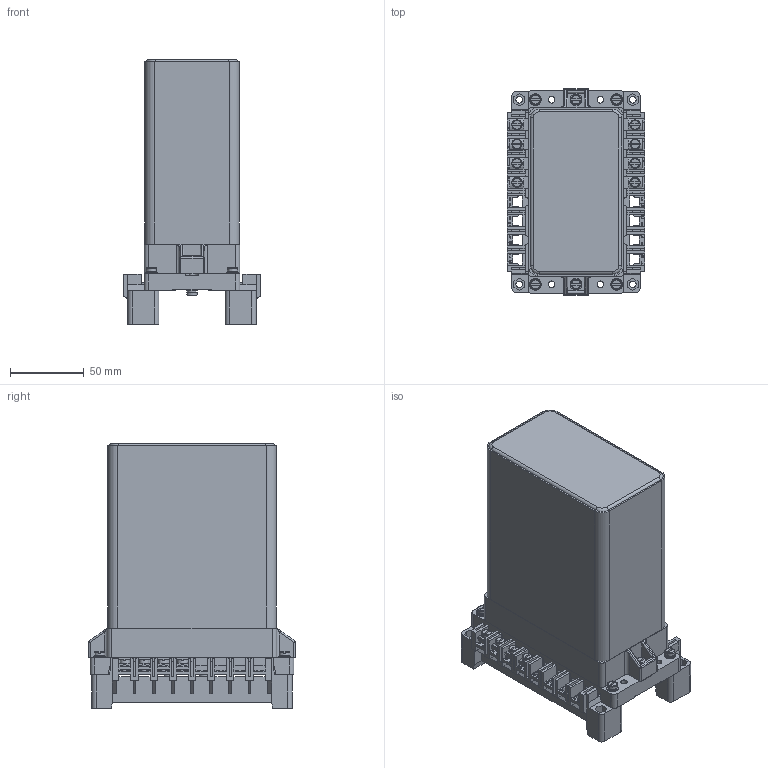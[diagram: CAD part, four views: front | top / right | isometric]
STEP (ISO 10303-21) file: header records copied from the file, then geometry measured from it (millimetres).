
FILE_DESCRIPTION(('STEP AP214'), '1');
FILE_NAME('ÈÀÅÆ.647155.016-84 - ÐÒ-140_2 ï.ï', '', ('UNSPECIFIED'), ('UNSPECIFIED'), 'ASCON STEP Converter 1.3', 'ASCON Math Kernel', '');
FILE_SCHEMA(('AUTOMOTIVE_DESIGN { 1 0 10303 214 3 1 1}'));
Length unit declared in the file: millimetre
Products named in the file (1): 壤牌.647155.016-84
Bounding box: 93 x 140 x 179.5 mm (x, y, z)
Volume: 1189680.9 mm3; surface area: 139963.2 mm2
Topology: 1 solids, 1 shells, 5334 faces, 15185 edges, 10038 vertices
Faces by surface type: plane 3439, cylinder 1771, torus 76, cone 36, bspline 12
Full cylindrical faces by diameter (mm): 4 x40, 4.3 x14, 4.5 x28, 5 x2, 5.9 x8, 7 x2, 7.5 x10, 8 x8
Entity records: 220667 total; most frequent: CARTESIAN_POINT 36590, ORIENTED_EDGE 30010, DIRECTION 29125, EDGE_CURVE 15005, LINE 10739, VECTOR 10739, VERTEX_POINT 10038, AXIS2_PLACEMENT_3D 9193
